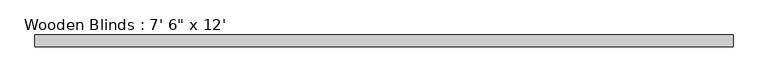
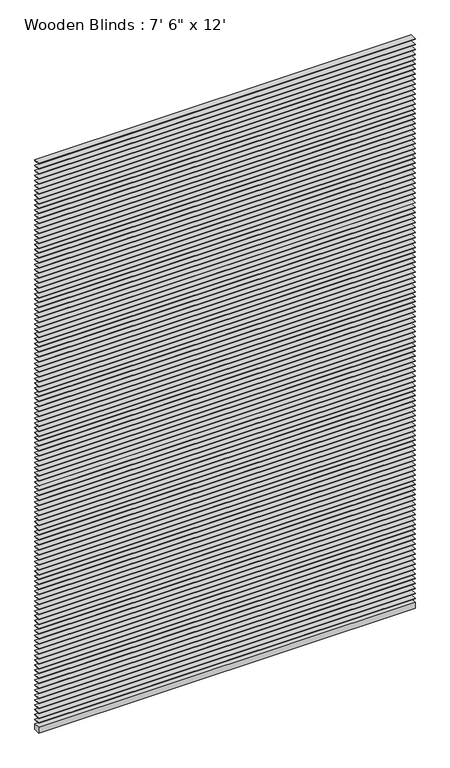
"""IFC4 building model written with IfcOpenShell, lengths in millimetres: furniture geometry."""

import ifcopenshell
import ifcopenshell.guid

model = None  # the IFC model being written
_history = None  # IfcOwnerHistory: only IFC2X3 demands one
_inside = {}  # id of a spatial element -> (the spatial element, [elements in it])
_under = {}  # id of a project, library or spatial element -> (it, [spatial elements below it])
_declared = {}  # id of a project -> (the project, [libraries it declares])
_typed = {}  # id of a type object -> (the type object, [elements of that type])
_made_of = {}  # id of a material, layer set ... -> (it, [elements and type objects made of it])


def new_model(schema):
    """Start an empty IFC model of exactly this schema.

    Asked for "IFC4X3", IfcOpenShell would pick the latest addendum, in which some entities
    have other attributes; the version numbers below select the first issue.
    IFC2X3 requires an IfcOwnerHistory on every rooted entity: one is made here for all.
    """
    global model, _history
    if schema == "IFC4X3":
        model = ifcopenshell.file(schema_version=(4, 3, 0, 0))
    else:
        model = ifcopenshell.file(schema=schema)
    _inside.clear()
    _under.clear()
    _declared.clear()
    _typed.clear()
    _made_of.clear()
    _history = None
    if model.schema == "IFC2X3":
        org = make("IfcOrganization", Name="unknown")
        user = make(
            "IfcPersonAndOrganization",
            ThePerson=make("IfcPerson", FamilyName="unknown"),
            TheOrganization=org,
        )
        app = make(
            "IfcApplication",
            ApplicationDeveloper=org,
            Version="unknown",
            ApplicationFullName="unknown",
            ApplicationIdentifier="unknown",
        )
        _history = make(
            "IfcOwnerHistory",
            OwningUser=user,
            OwningApplication=app,
            ChangeAction="ADDED",
            CreationDate=0,
        )
    return model


def make(cls, **values):
    """One entity of the class cls with the attributes given. An attribute that is None is left unset."""
    return model.create_entity(
        cls, **{name: value for name, value in values.items() if value is not None}
    )


def rooted(cls, **values):
    """An entity with a GlobalId (a new one), such as an element, a storey or a relation."""
    return make(cls, GlobalId=ifcopenshell.guid.new(), OwnerHistory=_history, **values)


def si_unit(unit_type, name, prefix=None):
    """IfcSIUnit, for example si_unit("LENGTHUNIT", "METRE", prefix="MILLI")."""
    return make("IfcSIUnit", UnitType=unit_type, Prefix=prefix, Name=name)


def assignment(units):
    """IfcUnitAssignment: the units of a project."""
    return None if units is None else make("IfcUnitAssignment", Units=units)


def point(xyz):
    """IfcCartesianPoint."""
    return None if xyz is None else make("IfcCartesianPoint", Coordinates=xyz)


def direction(xyz):
    """IfcDirection."""
    return None if xyz is None else make("IfcDirection", DirectionRatios=xyz)


def frame(location, z_axis=None, x_axis=None):
    """IfcAxis2Placement3D, a coordinate frame: its origin and axes. An axis left out is left unset."""
    return make(
        "IfcAxis2Placement3D",
        Location=point(location),
        Axis=direction(z_axis),
        RefDirection=direction(x_axis),
    )


def origin():
    """The frame at (0, 0, 0) with its axes left unset."""
    return frame((0.0, 0.0, 0.0))


def origin_with_axes():
    """The frame at (0, 0, 0) with the z axis (0, 0, 1) and the x axis (1, 0, 0) written out."""
    return frame((0.0, 0.0, 0.0), z_axis=(0.0, 0.0, 1.0), x_axis=(1.0, 0.0, 0.0))


def place(relative_to, where):
    """IfcLocalPlacement: puts the frame where relative to a parent placement (None: the world)."""
    return make(
        "IfcLocalPlacement", PlacementRelTo=relative_to, RelativePlacement=where
    )


def context(
    kind, dimensions, precision=None, world=None, true_north=None, identifier=None
):
    """IfcGeometricRepresentationContext, for example the 3D "Model" context."""
    return make(
        "IfcGeometricRepresentationContext",
        ContextIdentifier=identifier,
        ContextType=kind,
        CoordinateSpaceDimension=dimensions,
        Precision=precision,
        WorldCoordinateSystem=world,
        TrueNorth=true_north,
    )


def project(units=None, contexts=None):
    """IfcProject with its units and contexts."""
    return rooted(
        "IfcProject",
        Name="project",
        RepresentationContexts=contexts,
        UnitsInContext=assignment(units),
    )


def spatial(cls, under=None, at=None, **own):
    """A site, building, storey or space (cls), placed at a placement, below another one or the project."""
    s = rooted(cls, ObjectPlacement=at, **own)
    if under is not None:
        _under.setdefault(under.id(), (under, []))[1].append(s)
    return s


def polyline(points):
    """IfcPolyline through the points."""
    return make("IfcPolyline", Points=[point(p) for p in points])


def outline(outer, holes=None, kind="AREA"):
    """IfcArbitraryClosedProfileDef: a profile drawn as a closed curve; with holes, ...WithVoids."""
    if holes is None:
        return make("IfcArbitraryClosedProfileDef", ProfileType=kind, OuterCurve=outer)
    return make(
        "IfcArbitraryProfileDefWithVoids",
        ProfileType=kind,
        OuterCurve=outer,
        InnerCurves=holes,
    )


def extrude(swept, where, along, depth):
    """IfcExtrudedAreaSolid: the profile swept, set in the frame where, extruded along a direction by depth."""
    return make(
        "IfcExtrudedAreaSolid",
        SweptArea=swept,
        Position=where,
        ExtrudedDirection=direction(along),
        Depth=depth,
    )


def shape(context_of_items, identifier, shape_type, items):
    """IfcShapeRepresentation: the items that make up one representation, for example the "Body"."""
    return make(
        "IfcShapeRepresentation",
        ContextOfItems=context_of_items,
        RepresentationIdentifier=identifier,
        RepresentationType=shape_type,
        Items=items,
    )


def source(mapping_origin, context_of_items, identifier, shape_type, items):
    """IfcRepresentationMap: a shape defined once, which mapped items show again and again."""
    return make(
        "IfcRepresentationMap",
        MappingOrigin=mapping_origin,
        MappedRepresentation=shape(context_of_items, identifier, shape_type, items),
    )


def transform(
    local_origin,
    x_axis=None,
    y_axis=None,
    z_axis=None,
    scale=None,
    scale2=None,
    scale3=None,
    uniform=True,
):
    """IfcCartesianTransformationOperator3D, or its non-uniform kind. x_axis, y_axis, z_axis: its Axis1, 2, 3."""
    if uniform:
        return make(
            "IfcCartesianTransformationOperator3D",
            Axis1=direction(x_axis),
            Axis2=direction(y_axis),
            LocalOrigin=point(local_origin),
            Scale=scale,
            Axis3=direction(z_axis),
        )
    return make(
        "IfcCartesianTransformationOperator3DnonUniform",
        Axis1=direction(x_axis),
        Axis2=direction(y_axis),
        LocalOrigin=point(local_origin),
        Scale=scale,
        Axis3=direction(z_axis),
        Scale2=scale2,
        Scale3=scale3,
    )


def mapped(mapping_source, mapping_target):
    """IfcMappedItem: shows the shape of a source again, moved by a transform."""
    return make(
        "IfcMappedItem", MappingSource=mapping_source, MappingTarget=mapping_target
    )


def made_of(thing, what):
    """Note that an element or type object is made of a material, layer set ...; save() writes the relation."""
    if what is not None:
        _made_of.setdefault(what.id(), (what, []))[1].append(thing)
    return thing


def element(
    cls,
    number,
    at=None,
    inside=None,
    cuts=None,
    type_object=None,
    material=None,
    context=None,
    identifier="Body",
    shape_type=None,
    held_by="IfcProductDefinitionShape",
    body=None,
    shapes=None,
    **own,
):
    """One element of the class cls, such as IfcWall. Its Tag is "e" and its number.

    at: its placement. inside: the storey or other place that contains it. cuts: it is an
    opening in that element (IfcRelVoidsElement). A single representation is given by context,
    identifier, shape_type and body (its items); several are given by shapes. held_by: the class
    of the entity that holds the representations. save() writes the other relations.
    """
    e = rooted(cls, Tag="e%d" % number, ObjectPlacement=at, **own)
    if body is not None:
        shapes = [shape(context, identifier, shape_type, body)]
    if shapes is not None:
        e.Representation = make(held_by, Representations=shapes)
    if inside is not None:
        _inside.setdefault(inside.id(), (inside, []))[1].append(e)
    if cuts is not None:
        rooted(
            "IfcRelVoidsElement", RelatingBuildingElement=cuts, RelatedOpeningElement=e
        )
    if type_object is not None:
        _typed.setdefault(type_object.id(), (type_object, []))[1].append(e)
    return made_of(e, material)


def aggregate(whole, parts):
    """IfcRelAggregates: a whole, such as a stair, and the parts it consists of."""
    return rooted("IfcRelAggregates", RelatingObject=whole, RelatedObjects=parts)


def save(model, path):
    """Write the relations noted so far, then the file.

    IfcRelAggregates (storeys below a building ...), IfcRelContainedInSpatialStructure (elements
    in a storey), IfcRelDefinesByType, IfcRelAssociatesMaterial and IfcRelDeclares: one each for
    every whole, place, type object, material and project.
    """
    for whole, parts in _under.values():
        aggregate(whole, parts)
    for where, things in _inside.values():
        rooted(
            "IfcRelContainedInSpatialStructure",
            RelatedElements=things,
            RelatingStructure=where,
        )
    for kind, things in _typed.values():
        rooted("IfcRelDefinesByType", RelatedObjects=things, RelatingType=kind)
    for what, things in _made_of.values():
        rooted("IfcRelAssociatesMaterial", RelatedObjects=things, RelatingMaterial=what)
    for by, libraries in _declared.values():
        rooted("IfcRelDeclares", RelatingContext=by, RelatedDefinitions=libraries)
    model.write(path)


def furniture_480b9389(model_context):
    return source(origin(), model_context, "Body", "SweptSolid", [
        extrude(outline(polyline([(2286.0, 38.1), (2286.0, 0.0), (0.0, 0.0), (0.0, 38.1), (2286.0, 38.1)])), frame((0.0, 0.0, 3617.8790576), z_axis=(0.0, 0.0, 1.0), x_axis=(1.0, 0.0, 0.0)), (0.0, 0.0, 1.0), 3.175),
        extrude(outline(polyline([(2286.0, 38.1), (2286.0, 0.0), (0.0, 0.0), (0.0, 38.1), (2286.0, 38.1)])), frame((0.0, 0.0, 3586.1290576), z_axis=(0.0, 0.0, 1.0), x_axis=(1.0, 0.0, 0.0)), (0.0, 0.0, 1.0), 3.175),
        extrude(outline(polyline([(2286.0, 38.1), (2286.0, 0.0), (0.0, 0.0), (0.0, 38.1), (2286.0, 38.1)])), frame((0.0, 0.0, 3554.3790576), z_axis=(0.0, 0.0, 1.0), x_axis=(1.0, 0.0, 0.0)), (0.0, 0.0, 1.0), 3.175),
        extrude(outline(polyline([(2286.0, 38.1), (2286.0, 0.0), (0.0, 0.0), (0.0, 38.1), (2286.0, 38.1)])), frame((0.0, 0.0, 3522.6290576), z_axis=(0.0, 0.0, 1.0), x_axis=(1.0, 0.0, 0.0)), (0.0, 0.0, 1.0), 3.175),
        extrude(outline(polyline([(2286.0, 38.1), (2286.0, 0.0), (0.0, 0.0), (0.0, 38.1), (2286.0, 38.1)])), frame((0.0, 0.0, 3490.8790576), z_axis=(0.0, 0.0, 1.0), x_axis=(1.0, 0.0, 0.0)), (0.0, 0.0, 1.0), 3.175),
        extrude(outline(polyline([(2286.0, 38.1), (2286.0, 0.0), (0.0, 0.0), (0.0, 38.1), (2286.0, 38.1)])), frame((0.0, 0.0, 3459.1290576), z_axis=(0.0, 0.0, 1.0), x_axis=(1.0, 0.0, 0.0)), (0.0, 0.0, 1.0), 3.175),
        extrude(outline(polyline([(2286.0, 38.1), (2286.0, 0.0), (0.0, 0.0), (0.0, 38.1), (2286.0, 38.1)])), frame((0.0, 0.0, 3427.3790576), z_axis=(0.0, 0.0, 1.0), x_axis=(1.0, 0.0, 0.0)), (0.0, 0.0, 1.0), 3.175),
        extrude(outline(polyline([(2286.0, 38.1), (2286.0, 0.0), (0.0, 0.0), (0.0, 38.1), (2286.0, 38.1)])), frame((0.0, 0.0, 3395.6290576), z_axis=(0.0, 0.0, 1.0), x_axis=(1.0, 0.0, 0.0)), (0.0, 0.0, 1.0), 3.175),
        extrude(outline(polyline([(2286.0, 38.1), (2286.0, 0.0), (0.0, 0.0), (0.0, 38.1), (2286.0, 38.1)])), frame((0.0, 0.0, 3363.8790576), z_axis=(0.0, 0.0, 1.0), x_axis=(1.0, 0.0, 0.0)), (0.0, 0.0, 1.0), 3.175),
        extrude(outline(polyline([(2286.0, 38.1), (2286.0, 0.0), (0.0, 0.0), (0.0, 38.1), (2286.0, 38.1)])), frame((0.0, 0.0, 3332.1290576), z_axis=(0.0, 0.0, 1.0), x_axis=(1.0, 0.0, 0.0)), (0.0, 0.0, 1.0), 3.175),
        extrude(outline(polyline([(2286.0, 38.1), (2286.0, 0.0), (0.0, 0.0), (0.0, 38.1), (2286.0, 38.1)])), frame((0.0, 0.0, 3300.3790576), z_axis=(0.0, 0.0, 1.0), x_axis=(1.0, 0.0, 0.0)), (0.0, 0.0, 1.0), 3.175),
        extrude(outline(polyline([(2286.0, 38.1), (2286.0, 0.0), (0.0, 0.0), (0.0, 38.1), (2286.0, 38.1)])), frame((0.0, 0.0, 3268.6290576), z_axis=(0.0, 0.0, 1.0), x_axis=(1.0, 0.0, 0.0)), (0.0, 0.0, 1.0), 3.175),
        extrude(outline(polyline([(2286.0, 38.1), (2286.0, 0.0), (0.0, 0.0), (0.0, 38.1), (2286.0, 38.1)])), frame((0.0, 0.0, 3236.8790576), z_axis=(0.0, 0.0, 1.0), x_axis=(1.0, 0.0, 0.0)), (0.0, 0.0, 1.0), 3.175),
        extrude(outline(polyline([(2286.0, 38.1), (2286.0, 0.0), (0.0, 0.0), (0.0, 38.1), (2286.0, 38.1)])), frame((0.0, 0.0, 3205.1290576), z_axis=(0.0, 0.0, 1.0), x_axis=(1.0, 0.0, 0.0)), (0.0, 0.0, 1.0), 3.175),
        extrude(outline(polyline([(2286.0, 38.1), (2286.0, 0.0), (0.0, 0.0), (0.0, 38.1), (2286.0, 38.1)])), frame((0.0, 0.0, 3173.3790576), z_axis=(0.0, 0.0, 1.0), x_axis=(1.0, 0.0, 0.0)), (0.0, 0.0, 1.0), 3.175),
        extrude(outline(polyline([(2286.0, 38.1), (2286.0, 0.0), (0.0, 0.0), (0.0, 38.1), (2286.0, 38.1)])), frame((0.0, 0.0, 3141.6290576), z_axis=(0.0, 0.0, 1.0), x_axis=(1.0, 0.0, 0.0)), (0.0, 0.0, 1.0), 3.175),
        extrude(outline(polyline([(2286.0, 38.1), (2286.0, 0.0), (0.0, 0.0), (0.0, 38.1), (2286.0, 38.1)])), frame((0.0, 0.0, 3109.8790576), z_axis=(0.0, 0.0, 1.0), x_axis=(1.0, 0.0, 0.0)), (0.0, 0.0, 1.0), 3.175),
        extrude(outline(polyline([(2286.0, 38.1), (2286.0, 0.0), (0.0, 0.0), (0.0, 38.1), (2286.0, 38.1)])), frame((0.0, 0.0, 3078.1290576), z_axis=(0.0, 0.0, 1.0), x_axis=(1.0, 0.0, 0.0)), (0.0, 0.0, 1.0), 3.175),
        extrude(outline(polyline([(2286.0, 38.1), (2286.0, 0.0), (0.0, 0.0), (0.0, 38.1), (2286.0, 38.1)])), frame((0.0, 0.0, 3046.3790576), z_axis=(0.0, 0.0, 1.0), x_axis=(1.0, 0.0, 0.0)), (0.0, 0.0, 1.0), 3.175),
        extrude(outline(polyline([(2286.0, 38.1), (2286.0, 0.0), (0.0, 0.0), (0.0, 38.1), (2286.0, 38.1)])), frame((0.0, 0.0, 3014.6290576), z_axis=(0.0, 0.0, 1.0), x_axis=(1.0, 0.0, 0.0)), (0.0, 0.0, 1.0), 3.175),
        extrude(outline(polyline([(2286.0, 38.1), (2286.0, 0.0), (0.0, 0.0), (0.0, 38.1), (2286.0, 38.1)])), frame((0.0, 0.0, 2982.8790576), z_axis=(0.0, 0.0, 1.0), x_axis=(1.0, 0.0, 0.0)), (0.0, 0.0, 1.0), 3.175),
        extrude(outline(polyline([(2286.0, 38.1), (2286.0, 0.0), (0.0, 0.0), (0.0, 38.1), (2286.0, 38.1)])), frame((0.0, 0.0, 2951.1290576), z_axis=(0.0, 0.0, 1.0), x_axis=(1.0, 0.0, 0.0)), (0.0, 0.0, 1.0), 3.175),
        extrude(outline(polyline([(2286.0, 38.1), (2286.0, 0.0), (0.0, 0.0), (0.0, 38.1), (2286.0, 38.1)])), frame((0.0, 0.0, 2919.3790576), z_axis=(0.0, 0.0, 1.0), x_axis=(1.0, 0.0, 0.0)), (0.0, 0.0, 1.0), 3.175),
        extrude(outline(polyline([(2286.0, 38.1), (2286.0, 0.0), (0.0, 0.0), (0.0, 38.1), (2286.0, 38.1)])), frame((0.0, 0.0, 2887.6290576), z_axis=(0.0, 0.0, 1.0), x_axis=(1.0, 0.0, 0.0)), (0.0, 0.0, 1.0), 3.175),
        extrude(outline(polyline([(2286.0, 38.1), (2286.0, 0.0), (0.0, 0.0), (0.0, 38.1), (2286.0, 38.1)])), frame((0.0, 0.0, 2855.8790576), z_axis=(0.0, 0.0, 1.0), x_axis=(1.0, 0.0, 0.0)), (0.0, 0.0, 1.0), 3.175),
        extrude(outline(polyline([(2286.0, 38.1), (2286.0, 0.0), (0.0, 0.0), (0.0, 38.1), (2286.0, 38.1)])), frame((0.0, 0.0, 2824.1290576), z_axis=(0.0, 0.0, 1.0), x_axis=(1.0, 0.0, 0.0)), (0.0, 0.0, 1.0), 3.175),
        extrude(outline(polyline([(2286.0, 38.1), (2286.0, 0.0), (0.0, 0.0), (0.0, 38.1), (2286.0, 38.1)])), frame((0.0, 0.0, 2792.3790576), z_axis=(0.0, 0.0, 1.0), x_axis=(1.0, 0.0, 0.0)), (0.0, 0.0, 1.0), 3.175),
        extrude(outline(polyline([(2286.0, 38.1), (2286.0, 0.0), (0.0, 0.0), (0.0, 38.1), (2286.0, 38.1)])), frame((0.0, 0.0, 2760.6290576), z_axis=(0.0, 0.0, 1.0), x_axis=(1.0, 0.0, 0.0)), (0.0, 0.0, 1.0), 3.175),
        extrude(outline(polyline([(2286.0, 38.1), (2286.0, 0.0), (0.0, 0.0), (0.0, 38.1), (2286.0, 38.1)])), frame((0.0, 0.0, 2728.8790576), z_axis=(0.0, 0.0, 1.0), x_axis=(1.0, 0.0, 0.0)), (0.0, 0.0, 1.0), 3.175),
        extrude(outline(polyline([(2286.0, 38.1), (2286.0, 0.0), (0.0, 0.0), (0.0, 38.1), (2286.0, 38.1)])), frame((0.0, 0.0, 2697.1290576), z_axis=(0.0, 0.0, 1.0), x_axis=(1.0, 0.0, 0.0)), (0.0, 0.0, 1.0), 3.175),
        extrude(outline(polyline([(2286.0, 38.1), (2286.0, 0.0), (0.0, 0.0), (0.0, 38.1), (2286.0, 38.1)])), frame((0.0, 0.0, 2665.3790576), z_axis=(0.0, 0.0, 1.0), x_axis=(1.0, 0.0, 0.0)), (0.0, 0.0, 1.0), 3.175),
        extrude(outline(polyline([(2286.0, 38.1), (2286.0, 0.0), (0.0, 0.0), (0.0, 38.1), (2286.0, 38.1)])), frame((0.0, 0.0, 2633.6290576), z_axis=(0.0, 0.0, 1.0), x_axis=(1.0, 0.0, 0.0)), (0.0, 0.0, 1.0), 3.175),
        extrude(outline(polyline([(2286.0, 38.1), (2286.0, 0.0), (0.0, 0.0), (0.0, 38.1), (2286.0, 38.1)])), frame((0.0, 0.0, 2601.8790576), z_axis=(0.0, 0.0, 1.0), x_axis=(1.0, 0.0, 0.0)), (0.0, 0.0, 1.0), 3.175),
        extrude(outline(polyline([(2286.0, 38.1), (2286.0, 0.0), (0.0, 0.0), (0.0, 38.1), (2286.0, 38.1)])), frame((0.0, 0.0, 2570.1290576), z_axis=(0.0, 0.0, 1.0), x_axis=(1.0, 0.0, 0.0)), (0.0, 0.0, 1.0), 3.175),
        extrude(outline(polyline([(2286.0, 38.1), (2286.0, 0.0), (0.0, 0.0), (0.0, 38.1), (2286.0, 38.1)])), frame((0.0, 0.0, 2538.3790576), z_axis=(0.0, 0.0, 1.0), x_axis=(1.0, 0.0, 0.0)), (0.0, 0.0, 1.0), 3.175),
        extrude(outline(polyline([(2286.0, 38.1), (2286.0, 0.0), (0.0, 0.0), (0.0, 38.1), (2286.0, 38.1)])), frame((0.0, 0.0, 2506.6290576), z_axis=(0.0, 0.0, 1.0), x_axis=(1.0, 0.0, 0.0)), (0.0, 0.0, 1.0), 3.175),
        extrude(outline(polyline([(2286.0, 38.1), (2286.0, 0.0), (0.0, 0.0), (0.0, 38.1), (2286.0, 38.1)])), frame((0.0, 0.0, 2474.8790576), z_axis=(0.0, 0.0, 1.0), x_axis=(1.0, 0.0, 0.0)), (0.0, 0.0, 1.0), 3.175),
        extrude(outline(polyline([(2286.0, 38.1), (2286.0, 0.0), (0.0, 0.0), (0.0, 38.1), (2286.0, 38.1)])), frame((0.0, 0.0, 2443.1290576), z_axis=(0.0, 0.0, 1.0), x_axis=(1.0, 0.0, 0.0)), (0.0, 0.0, 1.0), 3.175),
        extrude(outline(polyline([(2286.0, 38.1), (2286.0, 0.0), (0.0, 0.0), (0.0, 38.1), (2286.0, 38.1)])), frame((0.0, 0.0, 2411.3790576), z_axis=(0.0, 0.0, 1.0), x_axis=(1.0, 0.0, 0.0)), (0.0, 0.0, 1.0), 3.175),
        extrude(outline(polyline([(2286.0, 38.1), (2286.0, 0.0), (0.0, 0.0), (0.0, 38.1), (2286.0, 38.1)])), frame((0.0, 0.0, 2379.6290576), z_axis=(0.0, 0.0, 1.0), x_axis=(1.0, 0.0, 0.0)), (0.0, 0.0, 1.0), 3.175),
        extrude(outline(polyline([(2286.0, 38.1), (2286.0, 0.0), (0.0, 0.0), (0.0, 38.1), (2286.0, 38.1)])), frame((0.0, 0.0, 2347.8790576), z_axis=(0.0, 0.0, 1.0), x_axis=(1.0, 0.0, 0.0)), (0.0, 0.0, 1.0), 3.175),
        extrude(outline(polyline([(2286.0, 38.1), (2286.0, 0.0), (0.0, 0.0), (0.0, 38.1), (2286.0, 38.1)])), frame((0.0, 0.0, 2316.1290576), z_axis=(0.0, 0.0, 1.0), x_axis=(1.0, 0.0, 0.0)), (0.0, 0.0, 1.0), 3.175),
        extrude(outline(polyline([(2286.0, 38.1), (2286.0, 0.0), (0.0, 0.0), (0.0, 38.1), (2286.0, 38.1)])), frame((0.0, 0.0, 2284.3790576), z_axis=(0.0, 0.0, 1.0), x_axis=(1.0, 0.0, 0.0)), (0.0, 0.0, 1.0), 3.175),
        extrude(outline(polyline([(2286.0, 38.1), (2286.0, 0.0), (0.0, 0.0), (0.0, 38.1), (2286.0, 38.1)])), frame((0.0, 0.0, 2252.6290576), z_axis=(0.0, 0.0, 1.0), x_axis=(1.0, 0.0, 0.0)), (0.0, 0.0, 1.0), 3.175),
        extrude(outline(polyline([(2286.0, 38.1), (2286.0, 0.0), (0.0, 0.0), (0.0, 38.1), (2286.0, 38.1)])), frame((0.0, 0.0, 2220.8790576), z_axis=(0.0, 0.0, 1.0), x_axis=(1.0, 0.0, 0.0)), (0.0, 0.0, 1.0), 3.175),
        extrude(outline(polyline([(2286.0, 38.1), (2286.0, 0.0), (0.0, 0.0), (0.0, 38.1), (2286.0, 38.1)])), frame((0.0, 0.0, 2189.1290576), z_axis=(0.0, 0.0, 1.0), x_axis=(1.0, 0.0, 0.0)), (0.0, 0.0, 1.0), 3.175),
        extrude(outline(polyline([(2286.0, 38.1), (2286.0, 0.0), (0.0, 0.0), (0.0, 38.1), (2286.0, 38.1)])), frame((0.0, 0.0, 2157.3790576), z_axis=(0.0, 0.0, 1.0), x_axis=(1.0, 0.0, 0.0)), (0.0, 0.0, 1.0), 3.175),
        extrude(outline(polyline([(2286.0, 38.1), (2286.0, 0.0), (0.0, 0.0), (0.0, 38.1), (2286.0, 38.1)])), frame((0.0, 0.0, 2125.6290576), z_axis=(0.0, 0.0, 1.0), x_axis=(1.0, 0.0, 0.0)), (0.0, 0.0, 1.0), 3.175),
        extrude(outline(polyline([(2286.0, 38.1), (2286.0, 0.0), (0.0, 0.0), (0.0, 38.1), (2286.0, 38.1)])), frame((0.0, 0.0, 2093.8790576), z_axis=(0.0, 0.0, 1.0), x_axis=(1.0, 0.0, 0.0)), (0.0, 0.0, 1.0), 3.175),
        extrude(outline(polyline([(2286.0, 38.1), (2286.0, 0.0), (0.0, 0.0), (0.0, 38.1), (2286.0, 38.1)])), frame((0.0, 0.0, 2062.1290576), z_axis=(0.0, 0.0, 1.0), x_axis=(1.0, 0.0, 0.0)), (0.0, 0.0, 1.0), 3.175),
        extrude(outline(polyline([(2286.0, 38.1), (2286.0, 0.0), (0.0, 0.0), (0.0, 38.1), (2286.0, 38.1)])), frame((0.0, 0.0, 2030.3790576), z_axis=(0.0, 0.0, 1.0), x_axis=(1.0, 0.0, 0.0)), (0.0, 0.0, 1.0), 3.175),
        extrude(outline(polyline([(2286.0, 38.1), (2286.0, 0.0), (0.0, 0.0), (0.0, 38.1), (2286.0, 38.1)])), frame((0.0, 0.0, 1998.6290576), z_axis=(0.0, 0.0, 1.0), x_axis=(1.0, 0.0, 0.0)), (0.0, 0.0, 1.0), 3.175),
        extrude(outline(polyline([(2286.0, 38.1), (2286.0, 0.0), (0.0, 0.0), (0.0, 38.1), (2286.0, 38.1)])), frame((0.0, 0.0, 1966.8790576), z_axis=(0.0, 0.0, 1.0), x_axis=(1.0, 0.0, 0.0)), (0.0, 0.0, 1.0), 3.175),
        extrude(outline(polyline([(2286.0, 38.1), (2286.0, 0.0), (0.0, 0.0), (0.0, 38.1), (2286.0, 38.1)])), frame((0.0, 0.0, 1935.1290576), z_axis=(0.0, 0.0, 1.0), x_axis=(1.0, 0.0, 0.0)), (0.0, 0.0, 1.0), 3.175),
        extrude(outline(polyline([(2286.0, 38.1), (2286.0, 0.0), (0.0, 0.0), (0.0, 38.1), (2286.0, 38.1)])), frame((0.0, 0.0, 1903.3790576), z_axis=(0.0, 0.0, 1.0), x_axis=(1.0, 0.0, 0.0)), (0.0, 0.0, 1.0), 3.175),
        extrude(outline(polyline([(2286.0, 38.1), (2286.0, 0.0), (0.0, 0.0), (0.0, 38.1), (2286.0, 38.1)])), frame((0.0, 0.0, 1871.6290576), z_axis=(0.0, 0.0, 1.0), x_axis=(1.0, 0.0, 0.0)), (0.0, 0.0, 1.0), 3.175),
        extrude(outline(polyline([(2286.0, 38.1), (2286.0, 0.0), (0.0, 0.0), (0.0, 38.1), (2286.0, 38.1)])), frame((0.0, 0.0, 1839.8790576), z_axis=(0.0, 0.0, 1.0), x_axis=(1.0, 0.0, 0.0)), (0.0, 0.0, 1.0), 3.175),
        extrude(outline(polyline([(2286.0, 38.1), (2286.0, 0.0), (0.0, 0.0), (0.0, 38.1), (2286.0, 38.1)])), frame((0.0, 0.0, 1808.1290576), z_axis=(0.0, 0.0, 1.0), x_axis=(1.0, 0.0, 0.0)), (0.0, 0.0, 1.0), 3.175),
        extrude(outline(polyline([(2286.0, 38.1), (2286.0, 0.0), (0.0, 0.0), (0.0, 38.1), (2286.0, 38.1)])), frame((0.0, 0.0, 1776.3790576), z_axis=(0.0, 0.0, 1.0), x_axis=(1.0, 0.0, 0.0)), (0.0, 0.0, 1.0), 3.175),
        extrude(outline(polyline([(2286.0, 38.1), (2286.0, 0.0), (0.0, 0.0), (0.0, 38.1), (2286.0, 38.1)])), frame((0.0, 0.0, 1744.6290576), z_axis=(0.0, 0.0, 1.0), x_axis=(1.0, 0.0, 0.0)), (0.0, 0.0, 1.0), 3.175),
        extrude(outline(polyline([(2286.0, 38.1), (2286.0, 0.0), (0.0, 0.0), (0.0, 38.1), (2286.0, 38.1)])), frame((0.0, 0.0, 1712.8790576), z_axis=(0.0, 0.0, 1.0), x_axis=(1.0, 0.0, 0.0)), (0.0, 0.0, 1.0), 3.175),
        extrude(outline(polyline([(2286.0, 38.1), (2286.0, 0.0), (0.0, 0.0), (0.0, 38.1), (2286.0, 38.1)])), frame((0.0, 0.0, 1681.1290576), z_axis=(0.0, 0.0, 1.0), x_axis=(1.0, 0.0, 0.0)), (0.0, 0.0, 1.0), 3.175),
        extrude(outline(polyline([(2286.0, 38.1), (2286.0, 0.0), (0.0, 0.0), (0.0, 38.1), (2286.0, 38.1)])), frame((0.0, 0.0, 1649.3790576), z_axis=(0.0, 0.0, 1.0), x_axis=(1.0, 0.0, 0.0)), (0.0, 0.0, 1.0), 3.175),
        extrude(outline(polyline([(2286.0, 38.1), (2286.0, 0.0), (0.0, 0.0), (0.0, 38.1), (2286.0, 38.1)])), frame((0.0, 0.0, 1617.6290576), z_axis=(0.0, 0.0, 1.0), x_axis=(1.0, 0.0, 0.0)), (0.0, 0.0, 1.0), 3.175),
        extrude(outline(polyline([(2286.0, 38.1), (2286.0, 0.0), (0.0, 0.0), (0.0, 38.1), (2286.0, 38.1)])), frame((0.0, 0.0, 1585.8790576), z_axis=(0.0, 0.0, 1.0), x_axis=(1.0, 0.0, 0.0)), (0.0, 0.0, 1.0), 3.175),
        extrude(outline(polyline([(2286.0, 38.1), (2286.0, 0.0), (0.0, 0.0), (0.0, 38.1), (2286.0, 38.1)])), frame((0.0, 0.0, 1554.1290576), z_axis=(0.0, 0.0, 1.0), x_axis=(1.0, 0.0, 0.0)), (0.0, 0.0, 1.0), 3.175),
        extrude(outline(polyline([(2286.0, 38.1), (2286.0, 0.0), (0.0, 0.0), (0.0, 38.1), (2286.0, 38.1)])), frame((0.0, 0.0, 1522.3790576), z_axis=(0.0, 0.0, 1.0), x_axis=(1.0, 0.0, 0.0)), (0.0, 0.0, 1.0), 3.175),
        extrude(outline(polyline([(2286.0, 38.1), (2286.0, 0.0), (0.0, 0.0), (0.0, 38.1), (2286.0, 38.1)])), frame((0.0, 0.0, 1490.6290576), z_axis=(0.0, 0.0, 1.0), x_axis=(1.0, 0.0, 0.0)), (0.0, 0.0, 1.0), 3.175),
        extrude(outline(polyline([(2286.0, 38.1), (2286.0, 0.0), (0.0, 0.0), (0.0, 38.1), (2286.0, 38.1)])), frame((0.0, 0.0, 1458.8790576), z_axis=(0.0, 0.0, 1.0), x_axis=(1.0, 0.0, 0.0)), (0.0, 0.0, 1.0), 3.175),
        extrude(outline(polyline([(2286.0, 38.1), (2286.0, 0.0), (0.0, 0.0), (0.0, 38.1), (2286.0, 38.1)])), frame((0.0, 0.0, 1427.1290576), z_axis=(0.0, 0.0, 1.0), x_axis=(1.0, 0.0, 0.0)), (0.0, 0.0, 1.0), 3.175),
        extrude(outline(polyline([(2286.0, 38.1), (2286.0, 0.0), (0.0, 0.0), (0.0, 38.1), (2286.0, 38.1)])), frame((0.0, 0.0, 1395.3790576), z_axis=(0.0, 0.0, 1.0), x_axis=(1.0, 0.0, 0.0)), (0.0, 0.0, 1.0), 3.175),
        extrude(outline(polyline([(2286.0, 38.1), (2286.0, 0.0), (0.0, 0.0), (0.0, 38.1), (2286.0, 38.1)])), frame((0.0, 0.0, 1363.6290576), z_axis=(0.0, 0.0, 1.0), x_axis=(1.0, 0.0, 0.0)), (0.0, 0.0, 1.0), 3.175),
        extrude(outline(polyline([(2286.0, 38.1), (2286.0, 0.0), (0.0, 0.0), (0.0, 38.1), (2286.0, 38.1)])), frame((0.0, 0.0, 1331.8790576), z_axis=(0.0, 0.0, 1.0), x_axis=(1.0, 0.0, 0.0)), (0.0, 0.0, 1.0), 3.175),
        extrude(outline(polyline([(2286.0, 38.1), (2286.0, 0.0), (0.0, 0.0), (0.0, 38.1), (2286.0, 38.1)])), frame((0.0, 0.0, 1300.1290576), z_axis=(0.0, 0.0, 1.0), x_axis=(1.0, 0.0, 0.0)), (0.0, 0.0, 1.0), 3.175),
        extrude(outline(polyline([(2286.0, 38.1), (2286.0, 0.0), (0.0, 0.0), (0.0, 38.1), (2286.0, 38.1)])), frame((0.0, 0.0, 1268.3790576), z_axis=(0.0, 0.0, 1.0), x_axis=(1.0, 0.0, 0.0)), (0.0, 0.0, 1.0), 3.175),
        extrude(outline(polyline([(2286.0, 38.1), (2286.0, 0.0), (0.0, 0.0), (0.0, 38.1), (2286.0, 38.1)])), frame((0.0, 0.0, 1236.6290576), z_axis=(0.0, 0.0, 1.0), x_axis=(1.0, 0.0, 0.0)), (0.0, 0.0, 1.0), 3.175),
        extrude(outline(polyline([(2286.0, 38.1), (2286.0, 0.0), (0.0, 0.0), (0.0, 38.1), (2286.0, 38.1)])), frame((0.0, 0.0, 1204.8790576), z_axis=(0.0, 0.0, 1.0), x_axis=(1.0, 0.0, 0.0)), (0.0, 0.0, 1.0), 3.175),
        extrude(outline(polyline([(2286.0, 38.1), (2286.0, 0.0), (0.0, 0.0), (0.0, 38.1), (2286.0, 38.1)])), frame((0.0, 0.0, 1173.1290576), z_axis=(0.0, 0.0, 1.0), x_axis=(1.0, 0.0, 0.0)), (0.0, 0.0, 1.0), 3.175),
        extrude(outline(polyline([(2286.0, 38.1), (2286.0, 0.0), (0.0, 0.0), (0.0, 38.1), (2286.0, 38.1)])), frame((0.0, 0.0, 1141.3790576), z_axis=(0.0, 0.0, 1.0), x_axis=(1.0, 0.0, 0.0)), (0.0, 0.0, 1.0), 3.175),
        extrude(outline(polyline([(2286.0, 38.1), (2286.0, 0.0), (0.0, 0.0), (0.0, 38.1), (2286.0, 38.1)])), frame((0.0, 0.0, 1109.6290576), z_axis=(0.0, 0.0, 1.0), x_axis=(1.0, 0.0, 0.0)), (0.0, 0.0, 1.0), 3.175),
        extrude(outline(polyline([(2286.0, 38.1), (2286.0, 0.0), (0.0, 0.0), (0.0, 38.1), (2286.0, 38.1)])), frame((0.0, 0.0, 1077.8790576), z_axis=(0.0, 0.0, 1.0), x_axis=(1.0, 0.0, 0.0)), (0.0, 0.0, 1.0), 3.175),
        extrude(outline(polyline([(2286.0, 38.1), (2286.0, 0.0), (0.0, 0.0), (0.0, 38.1), (2286.0, 38.1)])), frame((0.0, 0.0, 1046.1290576), z_axis=(0.0, 0.0, 1.0), x_axis=(1.0, 0.0, 0.0)), (0.0, 0.0, 1.0), 3.175),
        extrude(outline(polyline([(2286.0, 38.1), (2286.0, 0.0), (0.0, 0.0), (0.0, 38.1), (2286.0, 38.1)])), frame((0.0, 0.0, 1014.3790576), z_axis=(0.0, 0.0, 1.0), x_axis=(1.0, 0.0, 0.0)), (0.0, 0.0, 1.0), 3.175),
        extrude(outline(polyline([(2286.0, 38.1), (2286.0, 0.0), (0.0, 0.0), (0.0, 38.1), (2286.0, 38.1)])), frame((0.0, 0.0, 982.6290576), z_axis=(0.0, 0.0, 1.0), x_axis=(1.0, 0.0, 0.0)), (0.0, 0.0, 1.0), 3.175),
        extrude(outline(polyline([(2286.0, 38.1), (2286.0, 0.0), (0.0, 0.0), (0.0, 38.1), (2286.0, 38.1)])), frame((0.0, 0.0, 950.8790576), z_axis=(0.0, 0.0, 1.0), x_axis=(1.0, 0.0, 0.0)), (0.0, 0.0, 1.0), 3.175),
        extrude(outline(polyline([(2286.0, 38.1), (2286.0, 0.0), (0.0, 0.0), (0.0, 38.1), (2286.0, 38.1)])), frame((0.0, 0.0, 919.1290576), z_axis=(0.0, 0.0, 1.0), x_axis=(1.0, 0.0, 0.0)), (0.0, 0.0, 1.0), 3.175),
        extrude(outline(polyline([(2286.0, 38.1), (2286.0, 0.0), (0.0, 0.0), (0.0, 38.1), (2286.0, 38.1)])), frame((0.0, 0.0, 887.3790576), z_axis=(0.0, 0.0, 1.0), x_axis=(1.0, 0.0, 0.0)), (0.0, 0.0, 1.0), 3.175),
        extrude(outline(polyline([(2286.0, 38.1), (2286.0, 0.0), (0.0, 0.0), (0.0, 38.1), (2286.0, 38.1)])), frame((0.0, 0.0, 855.6290576), z_axis=(0.0, 0.0, 1.0), x_axis=(1.0, 0.0, 0.0)), (0.0, 0.0, 1.0), 3.175),
        extrude(outline(polyline([(2286.0, 38.1), (2286.0, 0.0), (0.0, 0.0), (0.0, 38.1), (2286.0, 38.1)])), frame((0.0, 0.0, 823.8790576), z_axis=(0.0, 0.0, 1.0), x_axis=(1.0, 0.0, 0.0)), (0.0, 0.0, 1.0), 3.175),
        extrude(outline(polyline([(2286.0, 38.1), (2286.0, 0.0), (0.0, 0.0), (0.0, 38.1), (2286.0, 38.1)])), frame((0.0, 0.0, 792.1290576), z_axis=(0.0, 0.0, 1.0), x_axis=(1.0, 0.0, 0.0)), (0.0, 0.0, 1.0), 3.175),
        extrude(outline(polyline([(2286.0, 38.1), (2286.0, 0.0), (0.0, 0.0), (0.0, 38.1), (2286.0, 38.1)])), frame((0.0, 0.0, 760.3790576), z_axis=(0.0, 0.0, 1.0), x_axis=(1.0, 0.0, 0.0)), (0.0, 0.0, 1.0), 3.175),
        extrude(outline(polyline([(2286.0, 38.1), (2286.0, 0.0), (0.0, 0.0), (0.0, 38.1), (2286.0, 38.1)])), frame((0.0, 0.0, 728.6290576), z_axis=(0.0, 0.0, 1.0), x_axis=(1.0, 0.0, 0.0)), (0.0, 0.0, 1.0), 3.175),
        extrude(outline(polyline([(2286.0, 38.1), (2286.0, 0.0), (0.0, 0.0), (0.0, 38.1), (2286.0, 38.1)])), frame((0.0, 0.0, 696.8790576), z_axis=(0.0, 0.0, 1.0), x_axis=(1.0, 0.0, 0.0)), (0.0, 0.0, 1.0), 3.175),
        extrude(outline(polyline([(2286.0, 38.1), (2286.0, 0.0), (0.0, 0.0), (0.0, 38.1), (2286.0, 38.1)])), frame((0.0, 0.0, 665.1290576), z_axis=(0.0, 0.0, 1.0), x_axis=(1.0, 0.0, 0.0)), (0.0, 0.0, 1.0), 3.175),
        extrude(outline(polyline([(2286.0, 38.1), (2286.0, 0.0), (0.0, 0.0), (0.0, 38.1), (2286.0, 38.1)])), frame((0.0, 0.0, 633.3790576), z_axis=(0.0, 0.0, 1.0), x_axis=(1.0, 0.0, 0.0)), (0.0, 0.0, 1.0), 3.175),
        extrude(outline(polyline([(2286.0, 38.1), (2286.0, 0.0), (0.0, 0.0), (0.0, 38.1), (2286.0, 38.1)])), frame((0.0, 0.0, 601.6290576), z_axis=(0.0, 0.0, 1.0), x_axis=(1.0, 0.0, 0.0)), (0.0, 0.0, 1.0), 3.175),
        extrude(outline(polyline([(2286.0, 38.1), (2286.0, 0.0), (0.0, 0.0), (0.0, 38.1), (2286.0, 38.1)])), frame((0.0, 0.0, 569.8790576), z_axis=(0.0, 0.0, 1.0), x_axis=(1.0, 0.0, 0.0)), (0.0, 0.0, 1.0), 3.175),
        extrude(outline(polyline([(2286.0, 38.1), (2286.0, 0.0), (0.0, 0.0), (0.0, 38.1), (2286.0, 38.1)])), frame((0.0, 0.0, 538.1290576), z_axis=(0.0, 0.0, 1.0), x_axis=(1.0, 0.0, 0.0)), (0.0, 0.0, 1.0), 3.175),
        extrude(outline(polyline([(2286.0, 38.1), (2286.0, 0.0), (0.0, 0.0), (0.0, 38.1), (2286.0, 38.1)])), frame((0.0, 0.0, 506.3790576), z_axis=(0.0, 0.0, 1.0), x_axis=(1.0, 0.0, 0.0)), (0.0, 0.0, 1.0), 3.175),
        extrude(outline(polyline([(2286.0, 38.1), (2286.0, 0.0), (0.0, 0.0), (0.0, 38.1), (2286.0, 38.1)])), frame((0.0, 0.0, 474.6290576), z_axis=(0.0, 0.0, 1.0), x_axis=(1.0, 0.0, 0.0)), (0.0, 0.0, 1.0), 3.175),
        extrude(outline(polyline([(2286.0, 38.1), (2286.0, 0.0), (0.0, 0.0), (0.0, 38.1), (2286.0, 38.1)])), frame((0.0, 0.0, 442.8790576), z_axis=(0.0, 0.0, 1.0), x_axis=(1.0, 0.0, 0.0)), (0.0, 0.0, 1.0), 3.175),
        extrude(outline(polyline([(2286.0, 38.1), (2286.0, 0.0), (0.0, 0.0), (0.0, 38.1), (2286.0, 38.1)])), frame((0.0, 0.0, 411.1290576), z_axis=(0.0, 0.0, 1.0), x_axis=(1.0, 0.0, 0.0)), (0.0, 0.0, 1.0), 3.175),
        extrude(outline(polyline([(2286.0, 38.1), (2286.0, 0.0), (0.0, 0.0), (0.0, 38.1), (2286.0, 38.1)])), frame((0.0, 0.0, 379.3790576), z_axis=(0.0, 0.0, 1.0), x_axis=(1.0, 0.0, 0.0)), (0.0, 0.0, 1.0), 3.175),
        extrude(outline(polyline([(2286.0, 38.1), (2286.0, 0.0), (0.0, 0.0), (0.0, 38.1), (2286.0, 38.1)])), frame((0.0, 0.0, 347.6290576), z_axis=(0.0, 0.0, 1.0), x_axis=(1.0, 0.0, 0.0)), (0.0, 0.0, 1.0), 3.175),
        extrude(outline(polyline([(2286.0, 38.1), (2286.0, 0.0), (0.0, 0.0), (0.0, 38.1), (2286.0, 38.1)])), frame((0.0, 0.0, 315.8790576), z_axis=(0.0, 0.0, 1.0), x_axis=(1.0, 0.0, 0.0)), (0.0, 0.0, 1.0), 3.175),
        extrude(outline(polyline([(2286.0, 38.1), (2286.0, 0.0), (0.0, 0.0), (0.0, 38.1), (2286.0, 38.1)])), frame((0.0, 0.0, 284.1290576), z_axis=(0.0, 0.0, 1.0), x_axis=(1.0, 0.0, 0.0)), (0.0, 0.0, 1.0), 3.175),
        extrude(outline(polyline([(2286.0, 38.1), (2286.0, 0.0), (0.0, 0.0), (0.0, 38.1), (2286.0, 38.1)])), frame((0.0, 0.0, 252.3790576), z_axis=(0.0, 0.0, 1.0), x_axis=(1.0, 0.0, 0.0)), (0.0, 0.0, 1.0), 3.175),
        extrude(outline(polyline([(2286.0, 38.1), (2286.0, 0.0), (0.0, 0.0), (0.0, 38.1), (2286.0, 38.1)])), frame((0.0, 0.0, 220.6290576), z_axis=(0.0, 0.0, 1.0), x_axis=(1.0, 0.0, 0.0)), (0.0, 0.0, 1.0), 3.175),
        extrude(outline(polyline([(2286.0, 38.1), (2286.0, 0.0), (0.0, 0.0), (0.0, 38.1), (2286.0, 38.1)])), frame((0.0, 0.0, 188.8790576), z_axis=(0.0, 0.0, 1.0), x_axis=(1.0, 0.0, 0.0)), (0.0, 0.0, 1.0), 3.175),
        extrude(outline(polyline([(2286.0, 38.1), (2286.0, 0.0), (0.0, 0.0), (0.0, 38.1), (2286.0, 38.1)])), frame((0.0, 0.0, 157.1290576), z_axis=(0.0, 0.0, 1.0), x_axis=(1.0, 0.0, 0.0)), (0.0, 0.0, 1.0), 3.175),
        extrude(outline(polyline([(2286.0, 38.1), (2286.0, 0.0), (0.0, 0.0), (0.0, 38.1), (2286.0, 38.1)])), frame((0.0, 0.0, 125.3790576), z_axis=(0.0, 0.0, 1.0), x_axis=(1.0, 0.0, 0.0)), (0.0, 0.0, 1.0), 3.175),
        extrude(outline(polyline([(2286.0, 38.1), (2286.0, 0.0), (0.0, 0.0), (0.0, 38.1), (2286.0, 38.1)])), frame((0.0, 0.0, 93.6290576), z_axis=(0.0, 0.0, 1.0), x_axis=(1.0, 0.0, 0.0)), (0.0, 0.0, 1.0), 3.175),
        extrude(outline(polyline([(2286.0, 38.1), (2286.0, 0.0), (0.0, 0.0), (0.0, 38.1), (2286.0, 38.1)])), frame((0.0, 0.0, 61.8790576), z_axis=(0.0, 0.0, 1.0), x_axis=(1.0, 0.0, 0.0)), (0.0, 0.0, 1.0), 3.175),
        extrude(outline(polyline([(2286.0, 38.1), (2286.0, 0.0), (0.0, 0.0), (0.0, 38.1), (2286.0, 38.1)])), frame((0.0, 0.0, 3651.25), z_axis=(0.0, 0.0, 1.0), x_axis=(1.0, 0.0, 0.0)), (0.0, 0.0, 1.0), 6.35),
        extrude(outline(polyline([(2286.0, 38.1), (2286.0, 0.0), (0.0, 0.0), (0.0, 38.1), (2286.0, 38.1)])), origin_with_axes(), (0.0, 0.0, 1.0), 38.1),
    ])


if __name__ == "__main__":
    model = new_model("IFC4")
    model_context = context("Model", 3, world=origin())
    ifc_project = project(units=[si_unit("LENGTHUNIT", "METRE", prefix="MILLI")], contexts=[model_context])
    site = spatial("IfcSite", under=ifc_project)
    building = spatial("IfcBuilding", under=site)
    placement = place(None, origin())
    furniture_shape = furniture_480b9389(model_context)
    element("IfcFurniture", 1, ObjectType="Wooden Blinds : 7' 6\" x 12'", at=placement, inside=building, context=model_context, shape_type="MappedRepresentation", body=[
        mapped(furniture_shape, transform((0.0, 0.0, 0.0), x_axis=(1.0, 0.0, 0.0), y_axis=(0.0, 1.0, 0.0), z_axis=(0.0, 0.0, 1.0))),
    ])
    save(model, "model.ifc")
